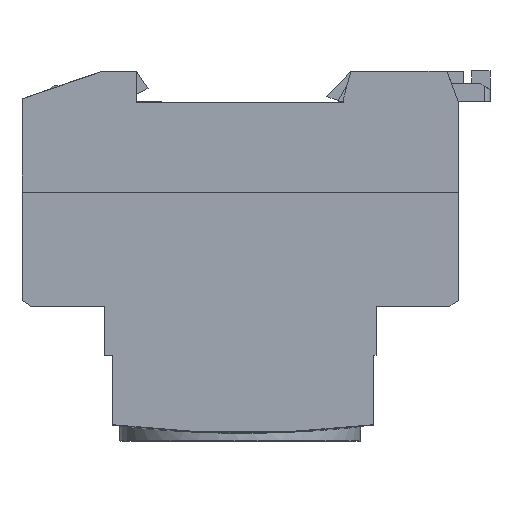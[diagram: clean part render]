
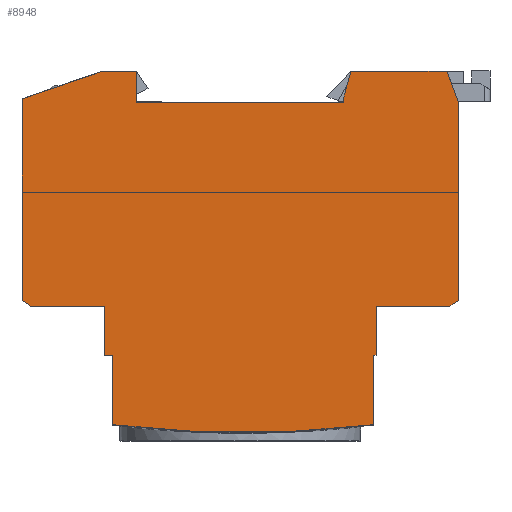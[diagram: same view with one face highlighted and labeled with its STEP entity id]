
A CAD part, front view. The second image highlights one B-rep face of the part: STEP entity #8948.
In plain terms, the highlighted planar face has unit normal (0, -1, 0).
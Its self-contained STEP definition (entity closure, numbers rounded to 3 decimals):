
#1621=CARTESIAN_POINT('',(0.5,-22.,122.344));
#1622=DIRECTION('',(0.,-1.,0.));
#1623=DIRECTION('',(-0.123,0.,-0.992));
#1624=AXIS2_PLACEMENT_3D('',#1621,#1622,#1623);
#1626=DIRECTION('',(0.,0.,1.));
#1627=VECTOR('',#1626,12.099);
#1628=CARTESIAN_POINT('',(-22.25,-22.,-61.699));
#1629=LINE('',#1628,#1627);
#1630=DIRECTION('',(-1.,0.,0.));
#1631=VECTOR('',#1630,1.5);
#1632=CARTESIAN_POINT('',(-22.25,-22.,-49.6));
#1633=LINE('',#1632,#1631);
#1634=DIRECTION('',(0.,0.,1.));
#1635=VECTOR('',#1634,8.6);
#1636=CARTESIAN_POINT('',(-23.75,-22.,-49.6));
#1637=LINE('',#1636,#1635);
#1638=DIRECTION('',(-1.,0.,0.));
#1639=VECTOR('',#1638,12.85);
#1640=CARTESIAN_POINT('',(-23.75,-22.,-41.));
#1641=LINE('',#1640,#1639);
#1642=DIRECTION('',(0.832,0.,-0.555));
#1643=VECTOR('',#1642,1.803);
#1644=CARTESIAN_POINT('',(-38.1,-22.,-40.));
#1645=LINE('',#1644,#1643);
#1646=DIRECTION('',(0.,0.,1.));
#1647=VECTOR('',#1646,35.2);
#1648=CARTESIAN_POINT('',(-38.1,-22.,-40.));
#1649=LINE('',#1648,#1647);
#1650=DIRECTION('',(0.946,0.,0.324));
#1651=VECTOR('',#1650,14.8);
#1652=CARTESIAN_POINT('',(-38.1,-22.,-4.8));
#1653=LINE('',#1652,#1651);
#1654=DIRECTION('',(1.,0.,0.));
#1655=VECTOR('',#1654,6.);
#1656=CARTESIAN_POINT('',(-24.1,-22.,0.));
#1657=LINE('',#1656,#1655);
#1658=DIRECTION('',(0.,0.,-1.));
#1659=VECTOR('',#1658,5.5);
#1660=CARTESIAN_POINT('',(-18.1,-22.,0.));
#1661=LINE('',#1660,#1659);
#1662=DIRECTION('',(1.,0.,0.));
#1663=VECTOR('',#1662,36.2);
#1664=CARTESIAN_POINT('',(-18.1,-22.,-5.5));
#1665=LINE('',#1664,#1663);
#1666=DIRECTION('',(0.,0.,1.));
#1667=VECTOR('',#1666,1.);
#1668=CARTESIAN_POINT('',(18.1,-22.,-5.5));
#1669=LINE('',#1668,#1667);
#1670=DIRECTION('',(0.259,0.,0.966));
#1671=VECTOR('',#1670,4.659);
#1672=CARTESIAN_POINT('',(18.1,-22.,-4.5));
#1673=LINE('',#1672,#1671);
#1674=DIRECTION('',(-0.342,0.,0.94));
#1675=VECTOR('',#1674,5.852);
#1676=CARTESIAN_POINT('',(38.1,-22.,-5.5));
#1677=LINE('',#1676,#1675);
#1678=DIRECTION('',(0.,0.,-1.));
#1679=VECTOR('',#1678,34.5);
#1680=CARTESIAN_POINT('',(38.1,-22.,-5.5));
#1681=LINE('',#1680,#1679);
#1682=DIRECTION('',(0.832,0.,0.555));
#1683=VECTOR('',#1682,1.803);
#1684=CARTESIAN_POINT('',(36.6,-22.,-41.));
#1685=LINE('',#1684,#1683);
#1686=DIRECTION('',(-1.,0.,0.));
#1687=VECTOR('',#1686,12.85);
#1688=CARTESIAN_POINT('',(36.6,-22.,-41.));
#1689=LINE('',#1688,#1687);
#1690=DIRECTION('',(0.,0.,-1.));
#1691=VECTOR('',#1690,8.6);
#1692=CARTESIAN_POINT('',(23.75,-22.,-41.));
#1693=LINE('',#1692,#1691);
#1694=DIRECTION('',(-1.,0.,0.));
#1695=VECTOR('',#1694,0.5);
#1696=CARTESIAN_POINT('',(23.75,-22.,-49.6));
#1697=LINE('',#1696,#1695);
#1698=DIRECTION('',(0.,0.,-1.));
#1699=VECTOR('',#1698,12.099);
#1700=CARTESIAN_POINT('',(23.25,-22.,-49.6));
#1701=LINE('',#1700,#1699);
#2252=DIRECTION('',(-1.,0.,0.));
#2253=VECTOR('',#2252,16.794);
#2254=CARTESIAN_POINT('',(36.1,-22.,0.));
#2255=LINE('',#2254,#2253);
#6031=CARTESIAN_POINT('',(-22.25,-22.,-49.6));
#6032=CARTESIAN_POINT('',(-23.75,-22.,-49.6));
#6033=VERTEX_POINT('',#6031);
#6034=VERTEX_POINT('',#6032);
#6035=CARTESIAN_POINT('',(-23.75,-22.,-41.));
#6036=VERTEX_POINT('',#6035);
#6037=CARTESIAN_POINT('',(-38.1,-22.,-4.8));
#6038=CARTESIAN_POINT('',(-24.1,-22.,0.));
#6039=VERTEX_POINT('',#6037);
#6040=VERTEX_POINT('',#6038);
#6041=CARTESIAN_POINT('',(-18.1,-22.,0.));
#6042=VERTEX_POINT('',#6041);
#6043=CARTESIAN_POINT('',(-18.1,-22.,-5.5));
#6044=VERTEX_POINT('',#6043);
#6045=CARTESIAN_POINT('',(18.1,-22.,-5.5));
#6046=VERTEX_POINT('',#6045);
#6047=CARTESIAN_POINT('',(18.1,-22.,-4.5));
#6048=VERTEX_POINT('',#6047);
#6049=CARTESIAN_POINT('',(23.75,-22.,-41.));
#6050=CARTESIAN_POINT('',(23.75,-22.,-49.6));
#6051=VERTEX_POINT('',#6049);
#6052=VERTEX_POINT('',#6050);
#6053=CARTESIAN_POINT('',(23.25,-22.,-49.6));
#6054=VERTEX_POINT('',#6053);
#6285=CARTESIAN_POINT('',(-38.1,-22.,-40.));
#6286=CARTESIAN_POINT('',(-36.6,-22.,-41.));
#6287=VERTEX_POINT('',#6285);
#6288=VERTEX_POINT('',#6286);
#6297=CARTESIAN_POINT('',(36.6,-22.,-41.));
#6298=CARTESIAN_POINT('',(38.1,-22.,-40.));
#6299=VERTEX_POINT('',#6297);
#6300=VERTEX_POINT('',#6298);
#6629=CARTESIAN_POINT('',(19.306,-22.,0.));
#6630=VERTEX_POINT('',#6629);
#6707=CARTESIAN_POINT('',(38.1,-22.,-5.5));
#6708=CARTESIAN_POINT('',(36.1,-22.,0.));
#6709=VERTEX_POINT('',#6707);
#6710=VERTEX_POINT('',#6708);
#7397=CARTESIAN_POINT('',(-22.25,-22.,-61.699));
#7398=CARTESIAN_POINT('',(23.25,-22.,-61.699));
#7399=VERTEX_POINT('',#7397);
#7400=VERTEX_POINT('',#7398);
#8901=CARTESIAN_POINT('',(0.,-22.,0.));
#8902=DIRECTION('',(0.,1.,0.));
#8903=DIRECTION('',(1.,0.,0.));
#8904=AXIS2_PLACEMENT_3D('',#8901,#8902,#8903);
#8905=PLANE('',#8904);
#8906=ORIENTED_EDGE('',*,*,#8889,.F.);
#8908=ORIENTED_EDGE('',*,*,#8907,.T.);
#8910=ORIENTED_EDGE('',*,*,#8909,.T.);
#8912=ORIENTED_EDGE('',*,*,#8911,.T.);
#8914=ORIENTED_EDGE('',*,*,#8913,.T.);
#8916=ORIENTED_EDGE('',*,*,#8915,.F.);
#8918=ORIENTED_EDGE('',*,*,#8917,.T.);
#8920=ORIENTED_EDGE('',*,*,#8919,.T.);
#8922=ORIENTED_EDGE('',*,*,#8921,.T.);
#8924=ORIENTED_EDGE('',*,*,#8923,.T.);
#8926=ORIENTED_EDGE('',*,*,#8925,.T.);
#8928=ORIENTED_EDGE('',*,*,#8927,.T.);
#8930=ORIENTED_EDGE('',*,*,#8929,.T.);
#8932=ORIENTED_EDGE('',*,*,#8931,.F.);
#8934=ORIENTED_EDGE('',*,*,#8933,.F.);
#8936=ORIENTED_EDGE('',*,*,#8935,.T.);
#8938=ORIENTED_EDGE('',*,*,#8937,.F.);
#8940=ORIENTED_EDGE('',*,*,#8939,.T.);
#8942=ORIENTED_EDGE('',*,*,#8941,.T.);
#8944=ORIENTED_EDGE('',*,*,#8943,.T.);
#8945=ORIENTED_EDGE('',*,*,#8863,.T.);
#8946=EDGE_LOOP('',(#8906,#8908,#8910,#8912,#8914,#8916,#8918,#8920,#8922,#8924,
#8926,#8928,#8930,#8932,#8934,#8936,#8938,#8940,#8942,#8944,#8945));
#8947=FACE_OUTER_BOUND('',#8946,.F.);
#8948=ADVANCED_FACE('',(#8947),#8905,.F.);
#1625=CIRCLE('',#1624,185.444);
#8863=EDGE_CURVE('',#6054,#7400,#1701,.T.);
#8889=EDGE_CURVE('',#7399,#7400,#1625,.T.);
#8907=EDGE_CURVE('',#7399,#6033,#1629,.T.);
#8909=EDGE_CURVE('',#6033,#6034,#1633,.T.);
#8911=EDGE_CURVE('',#6034,#6036,#1637,.T.);
#8913=EDGE_CURVE('',#6036,#6288,#1641,.T.);
#8915=EDGE_CURVE('',#6287,#6288,#1645,.T.);
#8917=EDGE_CURVE('',#6287,#6039,#1649,.T.);
#8919=EDGE_CURVE('',#6039,#6040,#1653,.T.);
#8921=EDGE_CURVE('',#6040,#6042,#1657,.T.);
#8923=EDGE_CURVE('',#6042,#6044,#1661,.T.);
#8925=EDGE_CURVE('',#6044,#6046,#1665,.T.);
#8927=EDGE_CURVE('',#6046,#6048,#1669,.T.);
#8929=EDGE_CURVE('',#6048,#6630,#1673,.T.);
#8931=EDGE_CURVE('',#6710,#6630,#2255,.T.);
#8933=EDGE_CURVE('',#6709,#6710,#1677,.T.);
#8935=EDGE_CURVE('',#6709,#6300,#1681,.T.);
#8937=EDGE_CURVE('',#6299,#6300,#1685,.T.);
#8939=EDGE_CURVE('',#6299,#6051,#1689,.T.);
#8941=EDGE_CURVE('',#6051,#6052,#1693,.T.);
#8943=EDGE_CURVE('',#6052,#6054,#1697,.T.);
